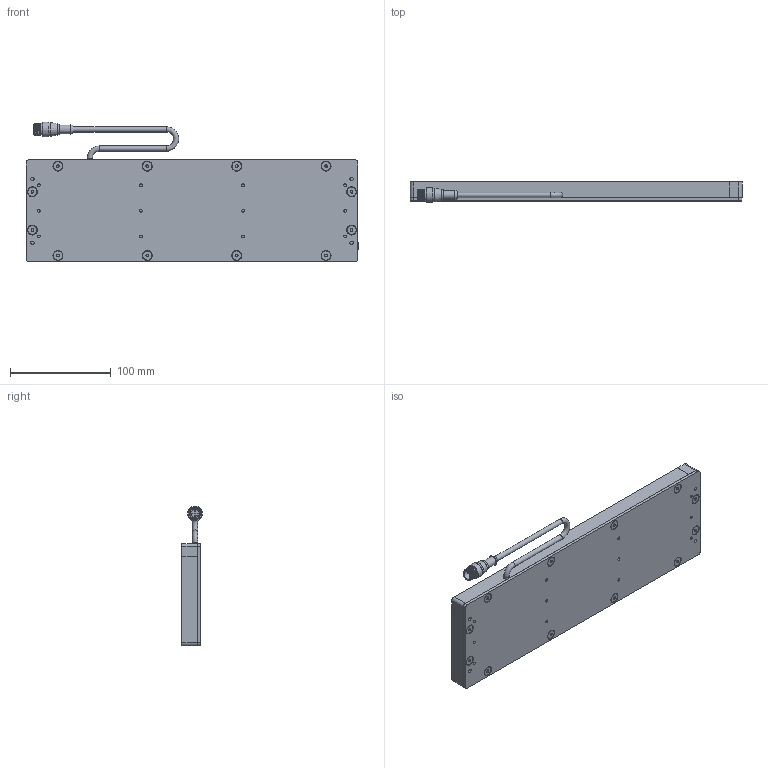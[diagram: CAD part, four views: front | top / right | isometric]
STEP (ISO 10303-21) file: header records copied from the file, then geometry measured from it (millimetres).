
FILE_DESCRIPTION (( 'STEP AP214' ), '1' );
FILE_NAME ('SBL312-XXX-WDC.STEP', '2026-04-17T18:27:31', ( '' ), ( '' ), 'SwSTEP 2.0', 'SolidWorks 2025', '' );
FILE_SCHEMA (( 'AUTOMOTIVE_DESIGN' ));
Length unit declared in the file: inch
Products named in the file (11): WD-SBLYYXX_3x12; M12 Connector 4,5 and 8 pin_RS4.5T; SBL3 to 18in rail_12in rail; SBL312-XXX-WDC; SBL3 to 18in rail_12in No CG; SC Pigtail Complete 18_5pin; SBL3 to 18in rail_03in rail; 8-32 x 0.375 FHCS (92210A192)_92210A192; MC Pigtail 24; Hex Standoff .375 x 8-32; BackPlate BLYYXX_0312
Assembly tree (33 placements, depth 3):
  SBL312-XXX-WDC
    BackPlate BLYYXX_0312
    SBL3 to 18in rail_12in rail
    SBL3 to 18in rail_12in No CG
    SBL3 to 18in rail_03in rail  x2
    SC Pigtail Complete 18_5pin
      MC Pigtail 24
      M12 Connector 4,5 and 8 pin_RS4.5T
    WD-SBLYYXX_3x12
    Hex Standoff .375 x 8-32  x12
    8-32 x 0.375 FHCS (92210A192)_92210A192  x12
Bounding box: 330.2 x 20.74 x 139.13 mm (x, y, z)
Volume: 338870 mm3; surface area: 203079.4 mm2
Topology: 32 solids, 32 shells, 846 faces, 1960 edges, 1203 vertices
Faces by surface type: plane 343, cylinder 238, cone 199, bspline 36, torus 25, sphere 5
Full cylindrical faces by diameter (mm): 0.762 x5, 2.705 x12, 3.454 x16, 4.496 x24, 5.207 x3, 6.604 x8, 6.858 x12, 8.382 x1, 8.636 x1, 9.119 x12, 10.16 x1, 10.541 x1, 11.938 x1, 13.716 x2, 14.732 x1
Entity records: 14493 total; most frequent: CARTESIAN_POINT 3874, DIRECTION 2009, ORIENTED_EDGE 1622, AXIS2_PLACEMENT_3D 819, EDGE_CURVE 811, EDGE_LOOP 613, VERTEX_POINT 596, FACE_OUTER_BOUND 462
